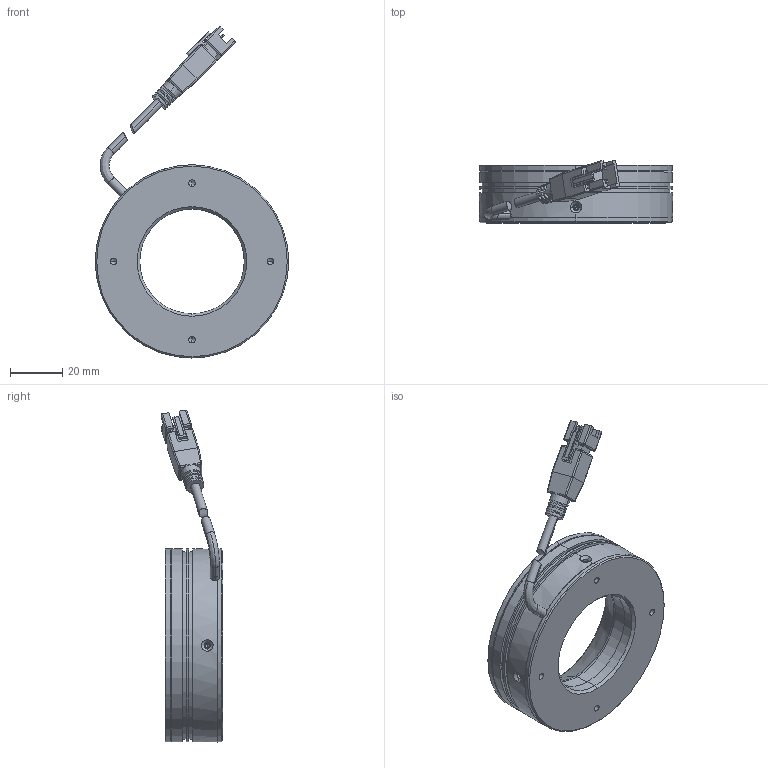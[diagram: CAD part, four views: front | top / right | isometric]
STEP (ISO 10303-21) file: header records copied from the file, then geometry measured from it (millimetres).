
FILE_DESCRIPTION (( 'STEP AP203' ), '1' );
FILE_NAME ('P-RL-74-30-00.STEP', '2026-03-13T07:55:45', ( '' ), ( '' ), 'SwSTEP 2.0', 'SolidWorks 2022', '' );
FILE_SCHEMA (( 'CONFIG_CONTROL_DESIGN' ));
Length unit declared in the file: millimetre
Products named in the file (6): P-RL-74-30-001; 7430灯珠-00; P-RL-74-30-00; P-RL-74-30-003; P-RL-74-30-002; 光源线
Assembly tree (5 placements, depth 2):
  P-RL-74-30-00
    P-RL-74-30-001
    P-RL-74-30-002
    P-RL-74-30-003
    7430灯珠-00
    光源线
Bounding box: 74 x 23.63 x 127.24 mm (x, y, z)
Volume: 40594.1 mm3; surface area: 37791.7 mm2
Topology: 7 solids, 7 shells, 393 faces, 962 edges, 572 vertices
Faces by surface type: plane 137, cylinder 135, cone 77, torus 24, bspline 20
Entity records: 13023 total; most frequent: CARTESIAN_POINT 3340, DIRECTION 1931, ORIENTED_EDGE 1852, EDGE_CURVE 926, AXIS2_PLACEMENT_3D 727, VERTEX_POINT 572, VECTOR 477, LINE 477
